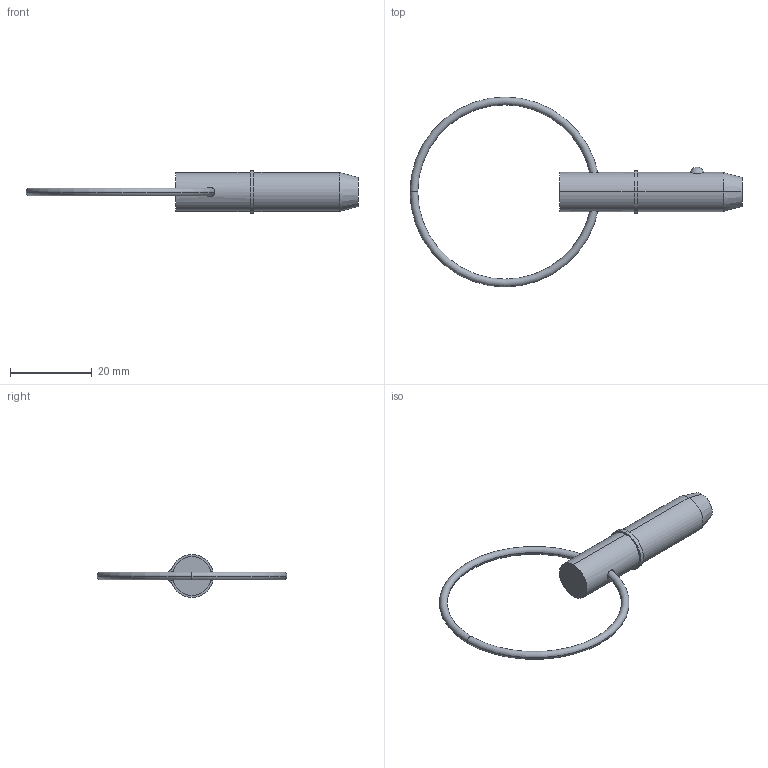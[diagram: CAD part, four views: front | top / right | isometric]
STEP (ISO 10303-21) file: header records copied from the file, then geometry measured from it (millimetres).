
FILE_DESCRIPTION (( 'STEP AP203' ), '1' );
FILE_NAME ('33014.W3705.step', '2024-11-04T08:25:50', ( '' ), ( '' ), 'SwSTEP 2.0', 'SolidWorks 2019', '' );
FILE_SCHEMA (( 'CONFIG_CONTROL_DESIGN' ));
Length unit declared in the file: millimetre
Products named in the file (3): Part1_33014.W3705; Part2_33014.W3705; 33014.W3705
Assembly tree (2 placements, depth 2):
  33014.W3705
    Part1_33014.W3705
    Part2_33014.W3705
Bounding box: 81.03 x 46.36 x 10.48 mm (x, y, z)
Volume: 3475.9 mm3; surface area: 2366.8 mm2
Topology: 2 solids, 2 shells, 22 faces, 43 edges, 26 vertices
Faces by surface type: torus 8, cylinder 6, plane 4, sphere 2, cone 2
Entity records: 1005 total; most frequent: CARTESIAN_POINT 228, DIRECTION 120, ORIENTED_EDGE 86, AXIS2_PLACEMENT_3D 56, EDGE_CURVE 43, CIRCLE 29, EDGE_LOOP 27, VERTEX_POINT 26
